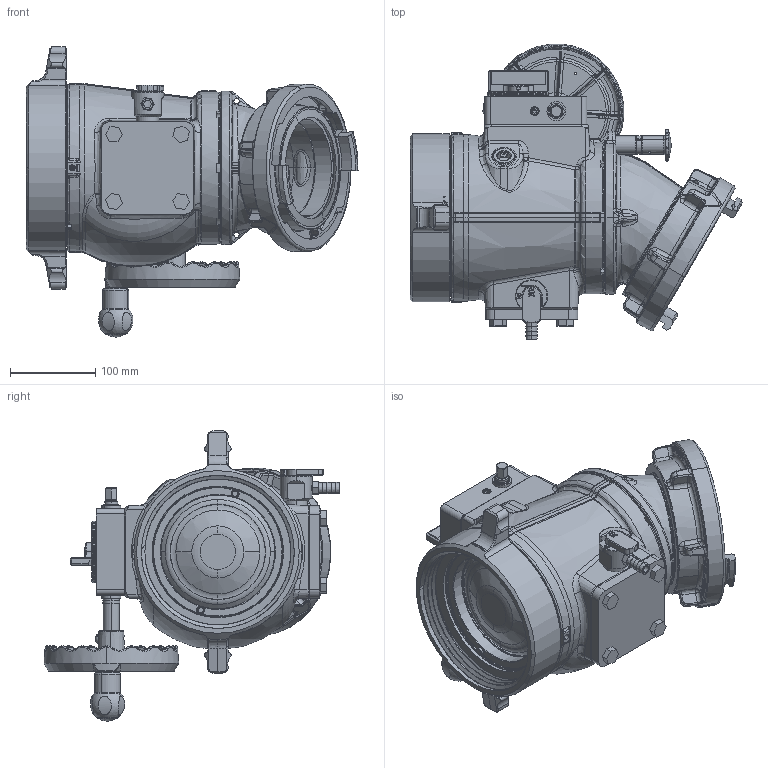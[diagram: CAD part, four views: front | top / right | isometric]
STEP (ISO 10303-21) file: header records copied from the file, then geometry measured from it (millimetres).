
FILE_DESCRIPTION (( 'STEP AP203' ), '1' );
FILE_NAME ('AZ1ST-NX.step', '2014-05-13T19:28:55', ( 'user' ), ( '' ), 'SwSTEP 2.0', 'SolidWorks 2012', '' );
FILE_SCHEMA (( 'CONFIG_CONTROL_DESIGN' ));
Length unit declared in the file: inch
Products named in the file (1): AZ1ST-NX
Bounding box: 388.68 x 346.52 x 339.79 mm (x, y, z)
Surface area: 641112.1 mm2 (no closed solid volume)
Topology: 0 solids, 156 shells, 2313 faces, 10636 edges, 8247 vertices
Faces by surface type: plane 738, bspline 578, cylinder 449, cone 271, torus 233, sphere 44
Entity records: 165027 total; most frequent: CARTESIAN_POINT 88791, ORIENTED_EDGE 15056, DIRECTION 13291, EDGE_CURVE 10611, VERTEX_POINT 8245, LINE 4943, VECTOR 4943, AXIS2_PLACEMENT_3D 4174
